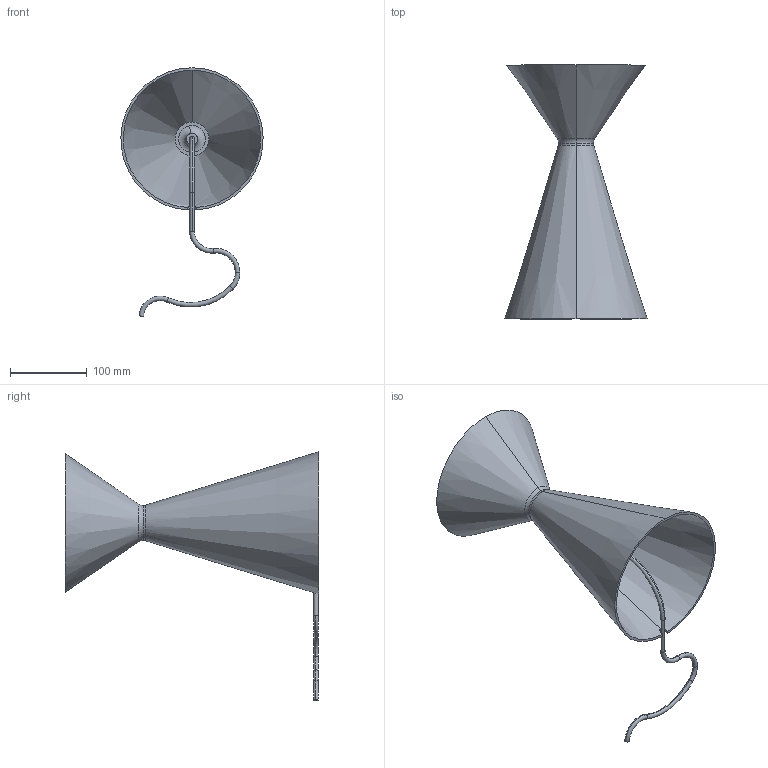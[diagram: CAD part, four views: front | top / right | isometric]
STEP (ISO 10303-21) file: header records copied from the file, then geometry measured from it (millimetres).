
FILE_DESCRIPTION (( 'STEP AP203' ), '1' );
FILE_NAME ('JL.T018.STEP', '2026-05-11T10:03:11', ( '' ), ( '' ), 'SwSTEP 2.0', 'SolidWorks 2013', '' );
FILE_SCHEMA (( 'CONFIG_CONTROL_DESIGN' ));
Length unit declared in the file: millimetre
Products named in the file (4): Cable JAL; JL.T018; Bombeta JAL; Vidre JAL
Assembly tree (3 placements, depth 2):
  JL.T018
    Vidre JAL
    Bombeta JAL
    Cable JAL
Bounding box: 184.9 x 330 x 322.87 mm (x, y, z)
Volume: 616508.2 mm3; surface area: 288861.7 mm2
Topology: 4 solids, 4 shells, 60 faces, 129 edges, 76 vertices
Faces by surface type: torus 24, cylinder 15, plane 11, cone 8, sphere 2
Entity records: 2134 total; most frequent: CARTESIAN_POINT 403, DIRECTION 330, ORIENTED_EDGE 248, AXIS2_PLACEMENT_3D 152, EDGE_CURVE 124, CIRCLE 86, VERTEX_POINT 73, EDGE_LOOP 63
